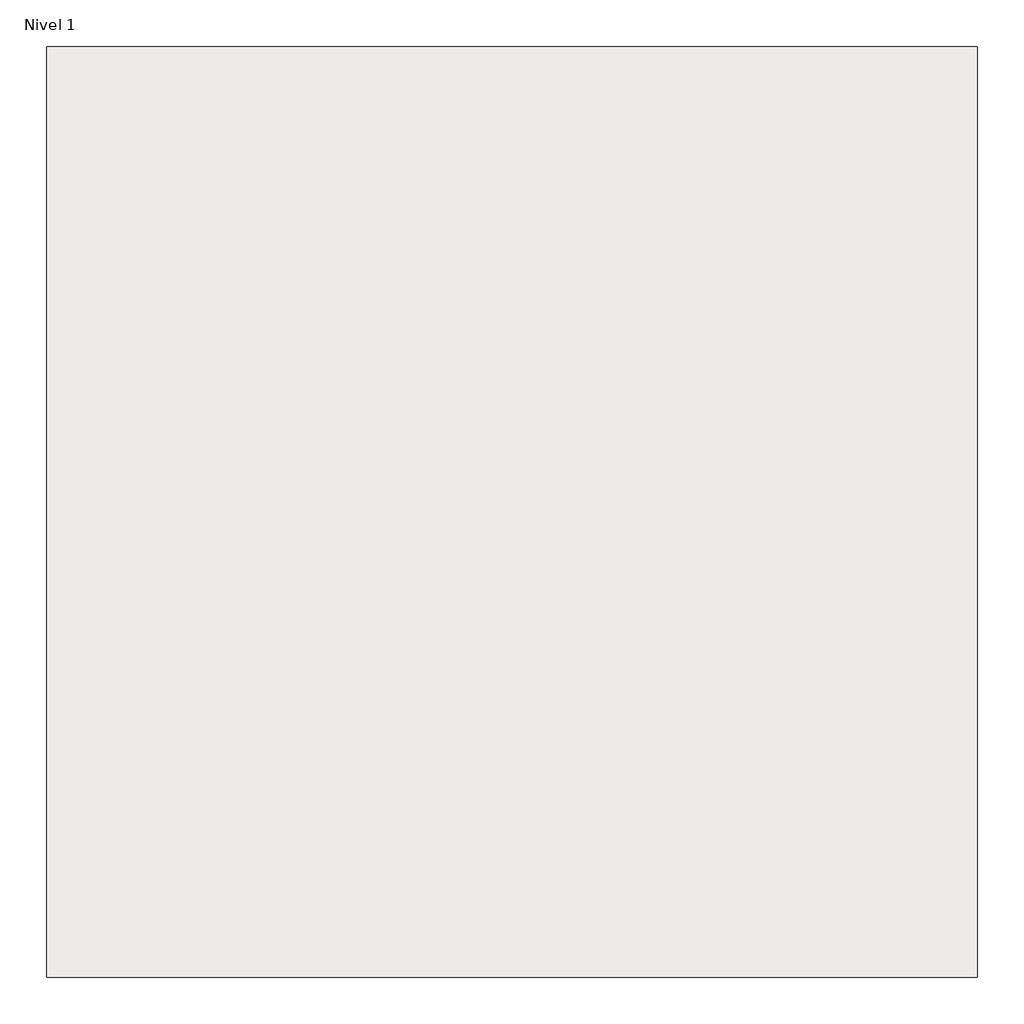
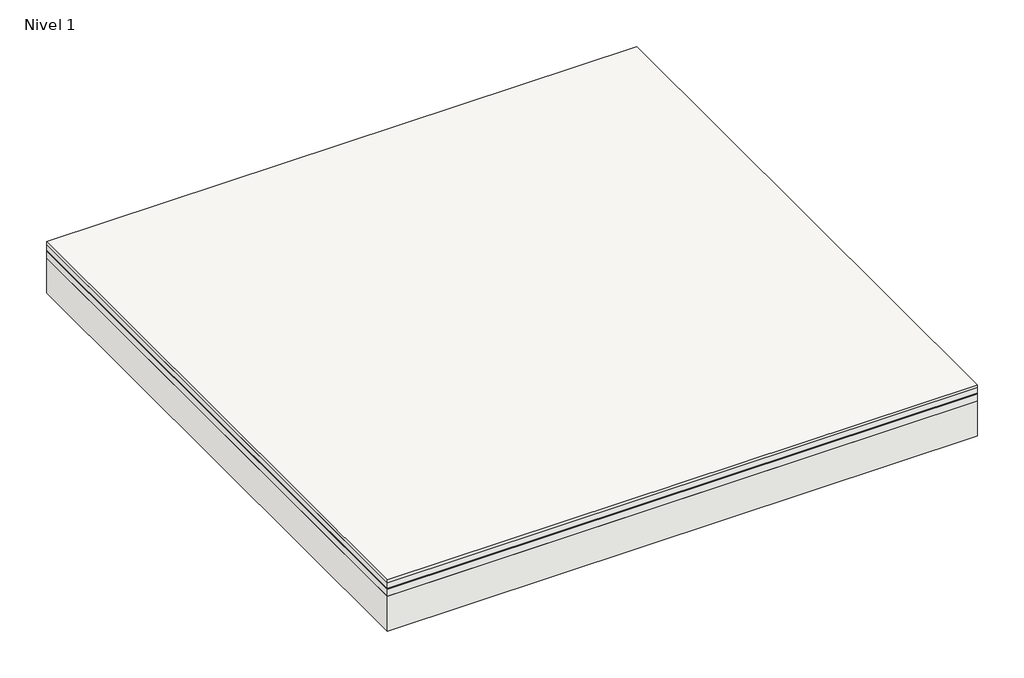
# One storey: 1 roof.
"""IFC4 building model written with IfcOpenShell, lengths in millimetres."""

from ifc_helpers import new_model, si_unit, frame, origin, origin_with_axes, place, context, project, spatial, polyline, outline, extrude, element, save

model = new_model("IFC4")

# Units and contexts
model_context = context("Model", 3, world=origin())
ifc_project = project(units=[si_unit("LENGTHUNIT", "METRE", prefix="MILLI")], contexts=[model_context])

# Site, building, storey
site = spatial("IfcSite", under=ifc_project)
building = spatial("IfcBuilding", under=site)
storey = spatial("IfcBuildingStorey", under=building, Name="Nivel 1", Elevation=0.0)

# Roof
placement = place(None, origin())
element("IfcRoof", 1, ObjectType="CubPlanaInvertidaTrans-PeatonesUsoPrivado_SoladoFijoBalcones_MCTPB48", at=placement, inside=storey, context=model_context, shape_type="SweptSolid", body=[
    extrude(outline(polyline([(-2544.9527165, -3086.8428917), (-6544.9527165, -3086.8428917), (-6544.9527165, 913.1571083), (-2544.9527165, 913.1571083), (-2544.9527165, -3086.8428917)])), frame((0.0, 0.0, 346.0), z_axis=(0.0, 0.0, 1.0), x_axis=(1.0, 0.0, 0.0)), (0.0, 0.0, 1.0), 20.0),
    extrude(outline(polyline([(-2544.9527165, -3086.8428917), (-6544.9527165, -3086.8428917), (-6544.9527165, 913.1571083), (-2544.9527165, 913.1571083), (-2544.9527165, -3086.8428917)])), frame((0.0, 0.0, 306.0), z_axis=(0.0, 0.0, 1.0), x_axis=(1.0, 0.0, 0.0)), (0.0, 0.0, 1.0), 40.0),
    extrude(outline(polyline([(-2544.9527165, -3086.8428917), (-6544.9527165, -3086.8428917), (-6544.9527165, 913.1571083), (-2544.9527165, 913.1571083), (-2544.9527165, -3086.8428917)])), frame((0.0, 0.0, 304.0), z_axis=(0.0, 0.0, 1.0), x_axis=(1.0, 0.0, 0.0)), (0.0, 0.0, 1.0), 2.0),
    extrude(outline(polyline([(-2544.9527165, -3086.8428917), (-6544.9527165, -3086.8428917), (-6544.9527165, 913.1571083), (-2544.9527165, 913.1571083), (-2544.9527165, -3086.8428917)])), frame((0.0, 0.0, 302.0), z_axis=(0.0, 0.0, 1.0), x_axis=(1.0, 0.0, 0.0)), (0.0, 0.0, 1.0), 2.0),
    extrude(outline(polyline([(-2544.9527165, -3086.8428917), (-6544.9527165, -3086.8428917), (-6544.9527165, 913.1571083), (-2544.9527165, 913.1571083), (-2544.9527165, -3086.8428917)])), frame((0.0, 0.0, 300.0), z_axis=(0.0, 0.0, 1.0), x_axis=(1.0, 0.0, 0.0)), (0.0, 0.0, 1.0), 2.0),
    extrude(outline(polyline([(-2544.9527165, -3086.8428917), (-6544.9527165, -3086.8428917), (-6544.9527165, 913.1571083), (-2544.9527165, 913.1571083), (-2544.9527165, -3086.8428917)])), frame((0.0, 0.0, 250.0), z_axis=(0.0, 0.0, 1.0), x_axis=(1.0, 0.0, 0.0)), (0.0, 0.0, 1.0), 50.0),
    extrude(outline(polyline([(-2544.9527165, -3086.8428917), (-6544.9527165, -3086.8428917), (-6544.9527165, 913.1571083), (-2544.9527165, 913.1571083), (-2544.9527165, -3086.8428917)])), origin_with_axes(), (0.0, 0.0, 1.0), 250.0),
])

save(model, "model.ifc")
